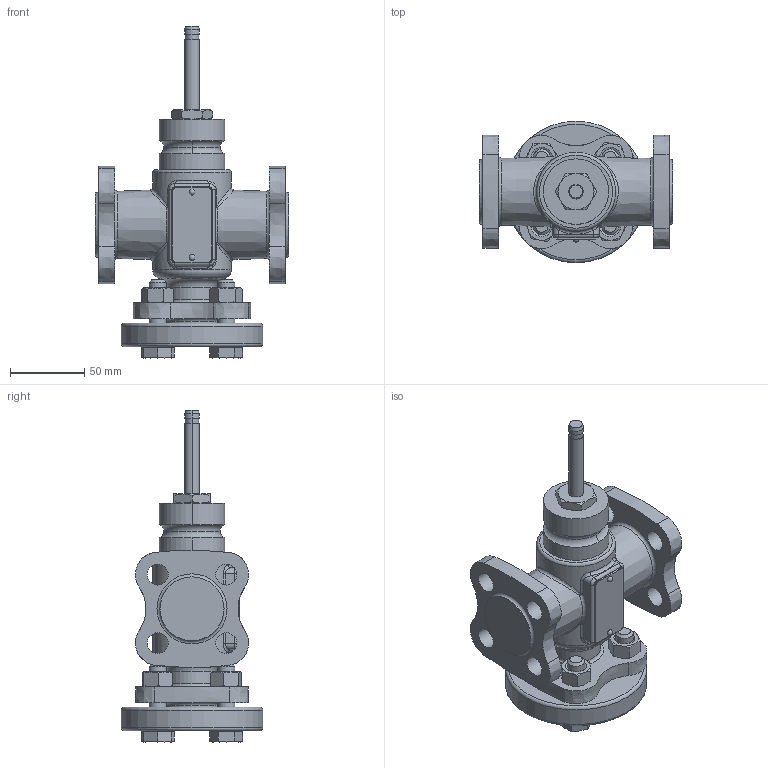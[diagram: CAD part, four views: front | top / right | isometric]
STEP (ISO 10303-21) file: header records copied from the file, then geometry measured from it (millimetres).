
FILE_DESCRIPTION(/* description */ ('Step214'),/* implementation_level */ '2;1');
FILE_NAME(/* name */ 'VVF32_42 DN15.stp',/* time_stamp */ '2015-11-10T12:55:55+01:00',/* author */ (''),/* organization */ ('Siemens'),/* preprocessor_version */ 'ST-DEVELOPER v15',/* originating_system */ 'SIEMENS PLM Software NX 8.5',/* authorisation */ 'for Duktil only');
FILE_SCHEMA (('AUTOMOTIVE_DESIGN { 1 0 10303 214 3 1 1 1 }'));
Length unit declared in the file: millimetre
Products named in the file (1): Volc19F47525lf8r
Bounding box: 130 x 95 x 222.9 mm (x, y, z)
Volume: 635965.2 mm3; surface area: 99402.3 mm2
Topology: 1 solids, 1 shells, 315 faces, 734 edges, 456 vertices
Faces by surface type: plane 104, cone 92, cylinder 60, extrusion 24, torus 22, bspline 7, sphere 6
Full cylindrical faces by diameter (mm): 11.701 x8, 14 x16, 16.6 x4, 33 x1, 36 x1, 43 x2, 53 x1, 95 x1
Entity records: 10402 total; most frequent: CARTESIAN_POINT 3847, ORIENTED_EDGE 1264, DIRECTION 1260, EDGE_CURVE 632, AXIS2_PLACEMENT_3D 539, EDGE_LOOP 438, VERTEX_POINT 418, ADVANCED_FACE 315
